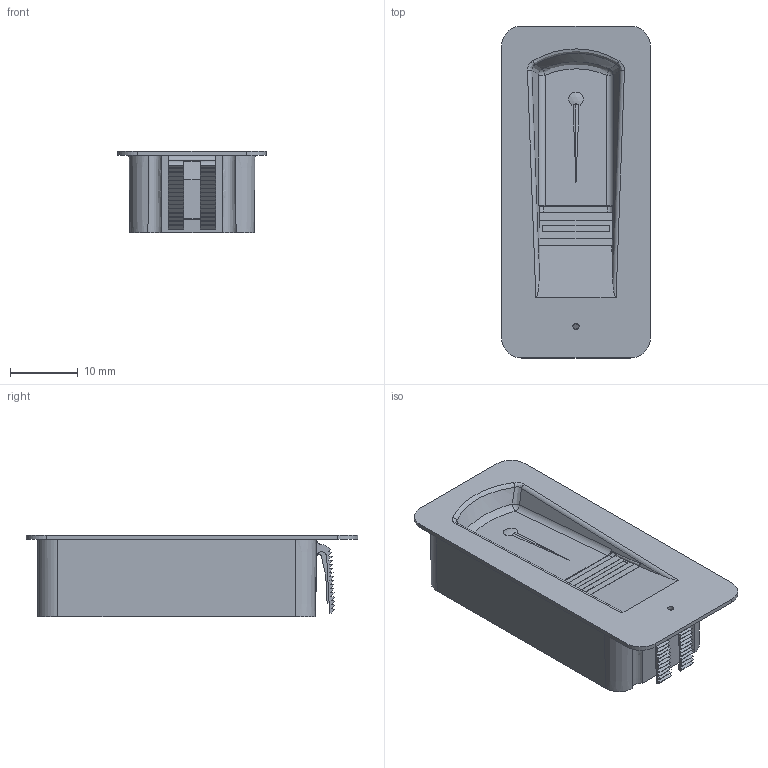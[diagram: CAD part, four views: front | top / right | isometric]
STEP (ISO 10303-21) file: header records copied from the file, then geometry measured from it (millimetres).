
FILE_DESCRIPTION( ( 'FS arte 49x22 glue type' ), '1' );
FILE_NAME( 'C:/Users/holp/Desktop/FS arte glue type 49x22/3D data FS arte glue type 49x22.stp', 'Unknown', ( 'holp' ), ( 'ekey biometric systems' ), 'PSStep 17.0.49', 'Solid Edge', ' ' );
FILE_SCHEMA( ( 'AUTOMOTIVE_DESIGN { 1 0 10303 214 1 1 1 1 }' ) );
Length unit declared in the file: millimetre
Products named in the file (4): Assem1; Frame; Circuit Board; Finger swipe area 49x22
Assembly tree (3 placements, depth 2):
  Assem1
    Frame
    Circuit Board
    Finger swipe area 49x22
Bounding box: 22 x 49 x 12.1 mm (x, y, z)
Volume: 3707.8 mm3; surface area: 7107.9 mm2
Topology: 3 solids, 3 shells, 877 faces, 2448 edges, 1535 vertices
Faces by surface type: plane 552, sphere 195, cylinder 94, bspline 16, extrusion 10, cone 10
Full cylindrical faces by diameter (mm): 0.189 x5, 0.9 x1, 2.3 x2
Entity records: 41859 total; most frequent: CARTESIAN_POINT 12651, ORIENTED_EDGE 4684, DIRECTION 4430, EDGE_CURVE 2342, VERTEX_POINT 1533, VECTOR 1492, LINE 1482, AXIS2_PLACEMENT_3D 1469
